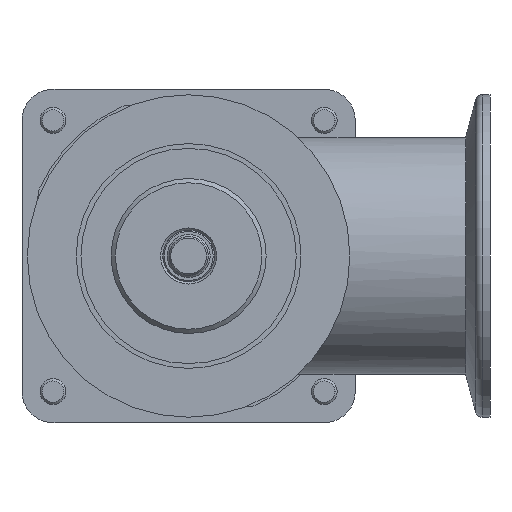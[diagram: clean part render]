
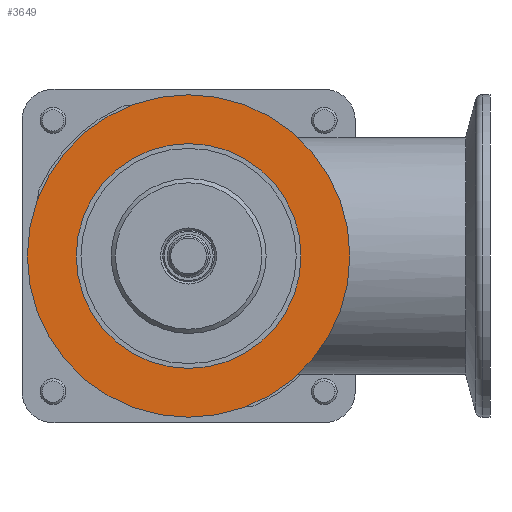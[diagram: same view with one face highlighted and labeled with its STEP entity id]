
A CAD part, front view. The second image highlights one B-rep face of the part: STEP entity #3649.
In plain terms, the highlighted planar face has unit normal (0, -1, 0) as drawn and (-1, 0, 0) by its records, which use the part's own axes.
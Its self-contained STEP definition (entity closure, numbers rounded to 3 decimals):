
#3359=PLANE('',#9904);
#3649=ADVANCED_FACE('',(#4366,#4367),#3359,.T.);
#4366=FACE_BOUND('',#4724,.T.);
#4367=FACE_BOUND('',#4725,.T.);
#4724=EDGE_LOOP('',(#5420));
#4725=EDGE_LOOP('',(#5421));
#5420=ORIENTED_EDGE('',*,*,#8438,.T.);
#5421=ORIENTED_EDGE('',*,*,#8437,.F.);
#7648=VERTEX_POINT('',#13148);
#7649=VERTEX_POINT('',#13151);
#8437=EDGE_CURVE('',#7648,#7648,#9552,.T.);
#8438=EDGE_CURVE('',#7649,#7649,#9553,.T.);
#9552=CIRCLE('',#9901,26.1);
#9553=CIRCLE('',#9903,37.452);
#9901=AXIS2_PLACEMENT_3D('',#13147,#10755,#10756);
#9903=AXIS2_PLACEMENT_3D('',#13150,#10759,#10760);
#9904=AXIS2_PLACEMENT_3D('',#13152,#10761,#10762);
#10755=DIRECTION('',(-1.,0.,0.));
#10756=DIRECTION('',(0.,0.,1.));
#10759=DIRECTION('',(-1.,0.,0.));
#10760=DIRECTION('',(0.,0.,1.));
#10761=DIRECTION('',(-1.,0.,0.));
#10762=DIRECTION('',(0.,0.,1.));
#13147=CARTESIAN_POINT('',(0.,0.,0.));
#13148=CARTESIAN_POINT('',(0.,0.,26.1));
#13150=CARTESIAN_POINT('',(0.,0.,0.));
#13151=CARTESIAN_POINT('',(0.,0.,37.452));
#13152=CARTESIAN_POINT('',(0.,26.1,0.));
